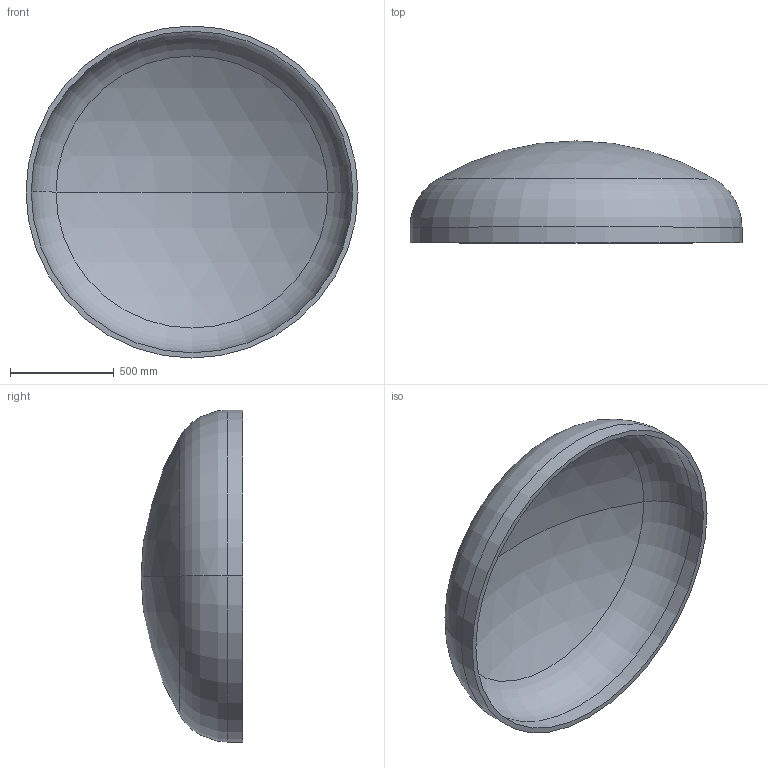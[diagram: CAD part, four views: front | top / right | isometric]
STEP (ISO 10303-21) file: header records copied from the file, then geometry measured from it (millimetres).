
FILE_DESCRIPTION (( 'STEP AP203' ), '1' );
FILE_NAME ('DIN 28013 Korbbogenform_-_Boden DIN 28013 - 1600 x 75 - I - s=25.step', '2016-07-01T11:10:03', ( '' ), ( '' ), 'SwSTEP 2.0', 'SolidWorks 2013', '' );
FILE_SCHEMA (( 'CONFIG_CONTROL_DESIGN' ));
Length unit declared in the file: millimetre
Products named in the file (1): DIN 28013 Korbbogenform_-_Boden DIN 28013 - 1600 x 75 - I - s=25
Bounding box: 1600 x 491 x 1600 mm (x, y, z)
Volume: 77396652.3 mm3; surface area: 6316739.3 mm2
Topology: 1 solids, 1 shells, 13 faces, 24 edges, 14 vertices
Faces by surface type: torus 4, cylinder 4, sphere 4, plane 1
Entity records: 407 total; most frequent: DIRECTION 72, CARTESIAN_POINT 52, ORIENTED_EDGE 48, AXIS2_PLACEMENT_3D 34, EDGE_CURVE 24, CIRCLE 20, VERTEX_POINT 14, EDGE_LOOP 14
